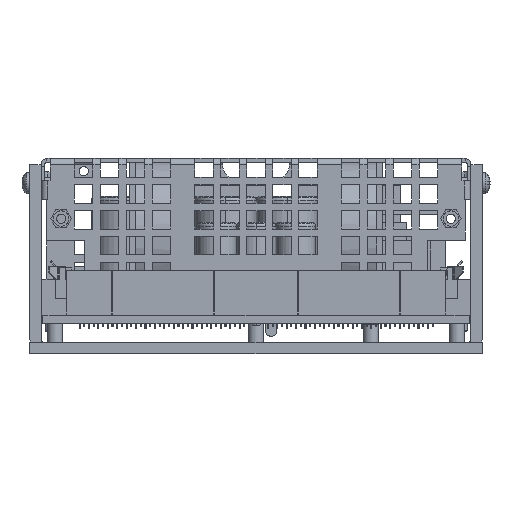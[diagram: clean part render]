
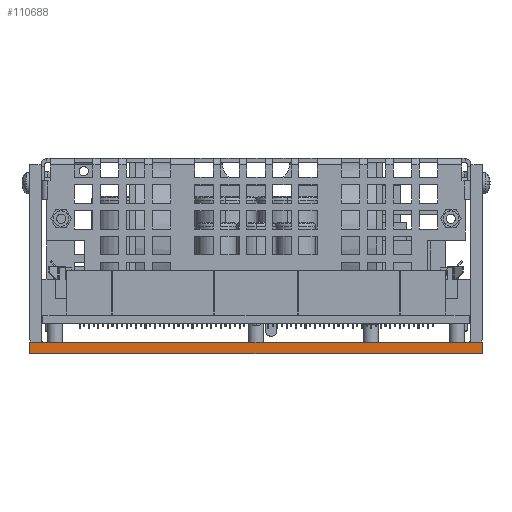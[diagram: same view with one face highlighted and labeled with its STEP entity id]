
A CAD part, front view. The second image highlights one B-rep face of the part: STEP entity #110688.
In plain terms, the highlighted planar face has unit normal (0, -1, 0).
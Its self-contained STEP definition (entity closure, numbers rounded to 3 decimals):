
#104843=DIRECTION('',(-1.,0.,0.));
#104844=VECTOR('',#104843,122.);
#104845=CARTESIAN_POINT('',(61.,-108.,0.));
#104846=LINE('',#104845,#104844);
#106659=DIRECTION('',(-1.,0.,0.));
#106660=VECTOR('',#106659,122.);
#106661=CARTESIAN_POINT('',(61.,-108.,3.));
#106662=LINE('',#106661,#106660);
#106663=DIRECTION('',(0.,0.,1.));
#106664=VECTOR('',#106663,3.);
#106665=CARTESIAN_POINT('',(61.,-108.,0.));
#106666=LINE('',#106665,#106664);
#106671=DIRECTION('',(0.,0.,1.));
#106672=VECTOR('',#106671,3.);
#106673=CARTESIAN_POINT('',(-61.,-108.,0.));
#106674=LINE('',#106673,#106672);
#108089=CARTESIAN_POINT('',(61.,-108.,0.));
#108090=VERTEX_POINT('',#108089);
#108091=CARTESIAN_POINT('',(-61.,-108.,0.));
#108092=VERTEX_POINT('',#108091);
#108125=CARTESIAN_POINT('',(-61.,-108.,3.));
#108126=VERTEX_POINT('',#108125);
#108127=CARTESIAN_POINT('',(61.,-108.,3.));
#108128=VERTEX_POINT('',#108127);
#110676=CARTESIAN_POINT('',(-61.,-108.,3.));
#110677=DIRECTION('',(0.,1.,0.));
#110678=DIRECTION('',(0.,0.,1.));
#110679=AXIS2_PLACEMENT_3D('',#110676,#110677,#110678);
#110680=PLANE('',#110679);
#110681=ORIENTED_EDGE('',*,*,#109034,.T.);
#110683=ORIENTED_EDGE('',*,*,#110682,.T.);
#110684=ORIENTED_EDGE('',*,*,#109275,.F.);
#110685=ORIENTED_EDGE('',*,*,#110669,.F.);
#110686=EDGE_LOOP('',(#110681,#110683,#110684,#110685));
#110687=FACE_OUTER_BOUND('',#110686,.F.);
#109034=EDGE_CURVE('',#108090,#108092,#104846,.T.);
#109275=EDGE_CURVE('',#108128,#108126,#106662,.T.);
#110669=EDGE_CURVE('',#108090,#108128,#106666,.T.);
#110682=EDGE_CURVE('',#108092,#108126,#106674,.T.);
#110688=ADVANCED_FACE('',(#110687),#110680,.F.);
